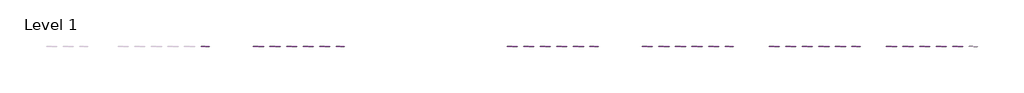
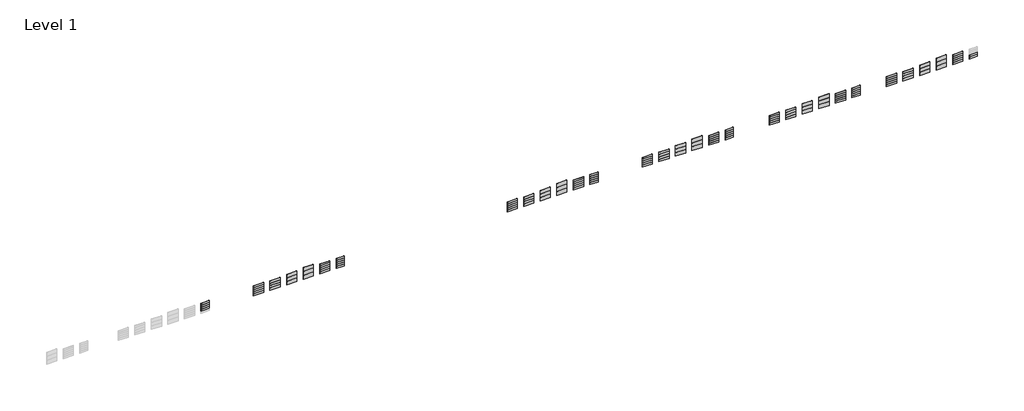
# One storey, part 4 of 6: 126 plates.
"""IFC4 building model written with IfcOpenShell, lengths in millimetres."""

from ifc_helpers import new_model, si_unit, origin, place, context, project, spatial, transform, mapped, element, save
from components import s001_satin_white_12mm_60b0a342, s001_satin_white_12mm_af0daad2, s001_satin_white_12mm_b3103b5f, plate_547342df, s001_satin_white_12mm_c1b55f6d, s001_satin_white_12mm_d668b75a, s001_satin_white_12mm_d8c75ca1, s001_satin_white_12mm_670b1509, s001_satin_white_20mm_e5290f1d, plate_eaecce36, s001_satin_white_20mm_25284a5f, plate_eb5be41b

model = new_model("IFC4")

# Units and contexts
model_context = context("Model", 3, world=origin())
ifc_project = project(units=[si_unit("LENGTHUNIT", "METRE", prefix="MILLI")], contexts=[model_context])

# Site, building, storey
site = spatial("IfcSite", under=ifc_project)
building = spatial("IfcBuilding", under=site)
storey = spatial("IfcBuildingStorey", under=building, Name="Level 1", Elevation=0.0)

# Plates
placement = place(None, origin())
s001_satin_white_12mm_shape = s001_satin_white_12mm_60b0a342(model_context)
element("IfcPlate", 1, ObjectType="Curtain-Panels_Outdoor-Material_HI-MACS_Solids : S102_Babylon-Beige_12mm", at=placement, inside=storey, context=model_context, shape_type="MappedRepresentation", body=[
    mapped(s001_satin_white_12mm_shape, transform((581315.8858072, 1061.3187116, 0.0), x_axis=(1.0, 0.0, 0.0), y_axis=(0.0, 1.0, 0.0), z_axis=(0.0, 0.0, 1.0))),
])
element("IfcPlate", 2, ObjectType="Curtain-Panels_Outdoor-Material_HI-MACS_Solids : S102_Babylon-Beige_12mm", at=placement, inside=storey, context=model_context, shape_type="MappedRepresentation", body=[
    mapped(s001_satin_white_12mm_shape, transform((581315.8858072, 1061.3187116, 760.0), x_axis=(1.0, 0.0, 0.0), y_axis=(0.0, 1.0, 0.0), z_axis=(0.0, 0.0, 1.0))),
])
element("IfcPlate", 3, ObjectType="Curtain-Panels_Outdoor-Material_HI-MACS_Solids : S102_Babylon-Beige_12mm", at=placement, inside=storey, context=model_context, shape_type="MappedRepresentation", body=[
    mapped(s001_satin_white_12mm_shape, transform((581315.8858072, 1061.3187116, 1520.0), x_axis=(1.0, 0.0, 0.0), y_axis=(0.0, 1.0, 0.0), z_axis=(0.0, 0.0, 1.0))),
])
element("IfcPlate", 4, ObjectType="Curtain-Panels_Outdoor-Material_HI-MACS_Solids : S102_Babylon-Beige_12mm", at=placement, inside=storey, context=model_context, shape_type="MappedRepresentation", body=[
    mapped(s001_satin_white_12mm_shape, transform((581315.8858072, 1061.3187116, 2280.0), x_axis=(1.0, 0.0, 0.0), y_axis=(0.0, 1.0, 0.0), z_axis=(0.0, 0.0, 1.0))),
])
s001_satin_white_12mm_2_shape = s001_satin_white_12mm_af0daad2(model_context)
element("IfcPlate", 5, ObjectType="Curtain-Panels_Outdoor-Material_HI-MACS_Solids : S102_Babylon-Beige_12mm", at=placement, inside=storey, context=model_context, shape_type="MappedRepresentation", body=[
    mapped(s001_satin_white_12mm_2_shape, transform((581315.8858072, 1061.3187116, 3040.0), x_axis=(1.0, 0.0, 0.0), y_axis=(0.0, 1.0, 0.0), z_axis=(0.0, 0.0, 1.0))),
])
s001_satin_white_12mm_3_shape = s001_satin_white_12mm_b3103b5f(model_context)
element("IfcPlate", 6, ObjectType="Curtain-Panels_Outdoor-Material_HI-MACS_Solids : S102_Babylon-Beige_12mm", at=placement, inside=storey, context=model_context, shape_type="MappedRepresentation", body=[
    mapped(s001_satin_white_12mm_3_shape, transform((587315.8858072, 1061.3187116, 0.0), x_axis=(1.0, 0.0, 0.0), y_axis=(0.0, 1.0, 0.0), z_axis=(0.0, 0.0, 1.0))),
])
element("IfcPlate", 7, ObjectType="Curtain-Panels_Outdoor-Material_HI-MACS_Solids : S102_Babylon-Beige_12mm", at=placement, inside=storey, context=model_context, shape_type="MappedRepresentation", body=[
    mapped(s001_satin_white_12mm_3_shape, transform((587315.8858072, 1061.3187116, 910.0), x_axis=(1.0, 0.0, 0.0), y_axis=(0.0, 1.0, 0.0), z_axis=(0.0, 0.0, 1.0))),
])
element("IfcPlate", 8, ObjectType="Curtain-Panels_Outdoor-Material_HI-MACS_Solids : S102_Babylon-Beige_12mm", at=placement, inside=storey, context=model_context, shape_type="MappedRepresentation", body=[
    mapped(s001_satin_white_12mm_3_shape, transform((587315.8858072, 1061.3187116, 1820.0), x_axis=(1.0, 0.0, 0.0), y_axis=(0.0, 1.0, 0.0), z_axis=(0.0, 0.0, 1.0))),
])
plate_shape = plate_547342df(model_context)
element("IfcPlate", 9, ObjectType="Curtain-Panels_Outdoor-Material_HI-MACS_Solids : S102_Babylon-Beige_12mm", at=placement, inside=storey, context=model_context, shape_type="MappedRepresentation", body=[
    mapped(plate_shape, transform((587315.8858072, 1061.3187116, 2730.0), x_axis=(1.0, 0.0, 0.0), y_axis=(0.0, 1.0, 0.0), z_axis=(0.0, 0.0, 1.0))),
])
s001_satin_white_12mm_4_shape = s001_satin_white_12mm_c1b55f6d(model_context)
element("IfcPlate", 10, ObjectType="Curtain-Panels_Outdoor-Material_HI-MACS_Solids : S102_Babylon-Beige_12mm", at=placement, inside=storey, context=model_context, shape_type="MappedRepresentation", body=[
    mapped(s001_satin_white_12mm_4_shape, transform((593315.8858072, 1061.3187116, 0.0), x_axis=(1.0, 0.0, 0.0), y_axis=(0.0, 1.0, 0.0), z_axis=(0.0, 0.0, 1.0))),
])
element("IfcPlate", 11, ObjectType="Curtain-Panels_Outdoor-Material_HI-MACS_Solids : S102_Babylon-Beige_12mm", at=placement, inside=storey, context=model_context, shape_type="MappedRepresentation", body=[
    mapped(s001_satin_white_12mm_4_shape, transform((593315.8858072, 1061.3187116, 1350.0), x_axis=(1.0, 0.0, 0.0), y_axis=(0.0, 1.0, 0.0), z_axis=(0.0, 0.0, 1.0))),
])
s001_satin_white_12mm_5_shape = s001_satin_white_12mm_d668b75a(model_context)
element("IfcPlate", 12, ObjectType="Curtain-Panels_Outdoor-Material_HI-MACS_Solids : S102_Babylon-Beige_12mm", at=placement, inside=storey, context=model_context, shape_type="MappedRepresentation", body=[
    mapped(s001_satin_white_12mm_5_shape, transform((593315.8858072, 1061.3187116, 2700.0), x_axis=(1.0, 0.0, 0.0), y_axis=(0.0, 1.0, 0.0), z_axis=(0.0, 0.0, 1.0))),
])
s001_satin_white_12mm_6_shape = s001_satin_white_12mm_d8c75ca1(model_context)
element("IfcPlate", 13, ObjectType="Curtain-Panels_Outdoor-Material_HI-MACS_Solids : S102_Babylon-Beige_12mm", at=placement, inside=storey, context=model_context, shape_type="MappedRepresentation", body=[
    mapped(s001_satin_white_12mm_6_shape, transform((599315.8858072, 1061.3187116, 0.0), x_axis=(1.0, 0.0, 0.0), y_axis=(0.0, 1.0, 0.0), z_axis=(0.0, 0.0, 1.0))),
])
element("IfcPlate", 14, ObjectType="Curtain-Panels_Outdoor-Material_HI-MACS_Solids : S102_Babylon-Beige_12mm", at=placement, inside=storey, context=model_context, shape_type="MappedRepresentation", body=[
    mapped(s001_satin_white_12mm_6_shape, transform((599315.8858072, 1061.3187116, 1520.0), x_axis=(1.0, 0.0, 0.0), y_axis=(0.0, 1.0, 0.0), z_axis=(0.0, 0.0, 1.0))),
])
s001_satin_white_12mm_7_shape = s001_satin_white_12mm_670b1509(model_context)
element("IfcPlate", 15, ObjectType="Curtain-Panels_Outdoor-Material_HI-MACS_Solids : S102_Babylon-Beige_12mm", at=placement, inside=storey, context=model_context, shape_type="MappedRepresentation", body=[
    mapped(s001_satin_white_12mm_7_shape, transform((599315.8858072, 1061.3187116, 3040.0), x_axis=(1.0, 0.0, 0.0), y_axis=(0.0, 1.0, 0.0), z_axis=(0.0, 0.0, 1.0))),
])
s001_satin_white_20mm_shape = s001_satin_white_20mm_e5290f1d(model_context)
element("IfcPlate", 16, ObjectType="Curtain-Panels_Outdoor-Material_HI-MACS_Solids : S102_Babylon-Beige_20mm", at=placement, inside=storey, context=model_context, shape_type="MappedRepresentation", body=[
    mapped(s001_satin_white_20mm_shape, transform((605315.8858072, 1061.3187116, 0.0), x_axis=(1.0, 0.0, 0.0), y_axis=(0.0, 1.0, 0.0), z_axis=(0.0, 0.0, 1.0))),
])
element("IfcPlate", 17, ObjectType="Curtain-Panels_Outdoor-Material_HI-MACS_Solids : S102_Babylon-Beige_20mm", at=placement, inside=storey, context=model_context, shape_type="MappedRepresentation", body=[
    mapped(s001_satin_white_20mm_shape, transform((605315.8858072, 1061.3187116, 760.0), x_axis=(1.0, 0.0, 0.0), y_axis=(0.0, 1.0, 0.0), z_axis=(0.0, 0.0, 1.0))),
])
element("IfcPlate", 18, ObjectType="Curtain-Panels_Outdoor-Material_HI-MACS_Solids : S102_Babylon-Beige_20mm", at=placement, inside=storey, context=model_context, shape_type="MappedRepresentation", body=[
    mapped(s001_satin_white_20mm_shape, transform((605315.8858072, 1061.3187116, 1520.0), x_axis=(1.0, 0.0, 0.0), y_axis=(0.0, 1.0, 0.0), z_axis=(0.0, 0.0, 1.0))),
])
element("IfcPlate", 19, ObjectType="Curtain-Panels_Outdoor-Material_HI-MACS_Solids : S102_Babylon-Beige_20mm", at=placement, inside=storey, context=model_context, shape_type="MappedRepresentation", body=[
    mapped(s001_satin_white_20mm_shape, transform((605315.8858072, 1061.3187116, 2280.0), x_axis=(1.0, 0.0, 0.0), y_axis=(0.0, 1.0, 0.0), z_axis=(0.0, 0.0, 1.0))),
])
plate_2_shape = plate_eaecce36(model_context)
element("IfcPlate", 20, ObjectType="Curtain-Panels_Outdoor-Material_HI-MACS_Solids : S102_Babylon-Beige_20mm", at=placement, inside=storey, context=model_context, shape_type="MappedRepresentation", body=[
    mapped(plate_2_shape, transform((605315.8858072, 1061.3187116, 3040.0), x_axis=(1.0, 0.0, 0.0), y_axis=(0.0, 1.0, 0.0), z_axis=(0.0, 0.0, 1.0))),
])
s001_satin_white_20mm_2_shape = s001_satin_white_20mm_25284a5f(model_context)
element("IfcPlate", 21, ObjectType="Curtain-Panels_Outdoor-Material_HI-MACS_Solids : S102_Babylon-Beige_20mm", at=placement, inside=storey, context=model_context, shape_type="MappedRepresentation", body=[
    mapped(s001_satin_white_20mm_2_shape, transform((610975.8858072, 1061.3187116, 0.0), x_axis=(1.0, 0.0, 0.0), y_axis=(0.0, 1.0, 0.0), z_axis=(0.0, 0.0, 1.0))),
])
element("IfcPlate", 22, ObjectType="Curtain-Panels_Outdoor-Material_HI-MACS_Solids : S102_Babylon-Beige_20mm", at=placement, inside=storey, context=model_context, shape_type="MappedRepresentation", body=[
    mapped(s001_satin_white_20mm_2_shape, transform((610975.8858072, 1061.3187116, 760.0), x_axis=(1.0, 0.0, 0.0), y_axis=(0.0, 1.0, 0.0), z_axis=(0.0, 0.0, 1.0))),
])
element("IfcPlate", 23, ObjectType="Curtain-Panels_Outdoor-Material_HI-MACS_Solids : S102_Babylon-Beige_20mm", at=placement, inside=storey, context=model_context, shape_type="MappedRepresentation", body=[
    mapped(s001_satin_white_20mm_2_shape, transform((610975.8858072, 1061.3187116, 1520.0), x_axis=(1.0, 0.0, 0.0), y_axis=(0.0, 1.0, 0.0), z_axis=(0.0, 0.0, 1.0))),
])
element("IfcPlate", 24, ObjectType="Curtain-Panels_Outdoor-Material_HI-MACS_Solids : S102_Babylon-Beige_20mm", at=placement, inside=storey, context=model_context, shape_type="MappedRepresentation", body=[
    mapped(s001_satin_white_20mm_2_shape, transform((610975.8858072, 1061.3187116, 2280.0), x_axis=(1.0, 0.0, 0.0), y_axis=(0.0, 1.0, 0.0), z_axis=(0.0, 0.0, 1.0))),
])
plate_3_shape = plate_eb5be41b(model_context)
element("IfcPlate", 25, ObjectType="Curtain-Panels_Outdoor-Material_HI-MACS_Solids : S102_Babylon-Beige_20mm", at=placement, inside=storey, context=model_context, shape_type="MappedRepresentation", body=[
    mapped(plate_3_shape, transform((610975.8858072, 1061.3187116, 3040.0), x_axis=(1.0, 0.0, 0.0), y_axis=(0.0, 1.0, 0.0), z_axis=(0.0, 0.0, 1.0))),
])
element("IfcPlate", 26, ObjectType="Curtain-Panels_Outdoor-Material_HI-MACS_Solids : S027_Orange_20mm", at=placement, inside=storey, context=model_context, shape_type="MappedRepresentation", body=[
    mapped(s001_satin_white_20mm_2_shape, transform((374975.8858072, 1061.3187116, 760.0), x_axis=(1.0, 0.0, 0.0), y_axis=(0.0, 1.0, 0.0), z_axis=(0.0, 0.0, 1.0))),
])
element("IfcPlate", 27, ObjectType="Curtain-Panels_Outdoor-Material_HI-MACS_Solids : S027_Orange_20mm", at=placement, inside=storey, context=model_context, shape_type="MappedRepresentation", body=[
    mapped(s001_satin_white_20mm_2_shape, transform((374975.8858072, 1061.3187116, 1520.0), x_axis=(1.0, 0.0, 0.0), y_axis=(0.0, 1.0, 0.0), z_axis=(0.0, 0.0, 1.0))),
])
element("IfcPlate", 28, ObjectType="Curtain-Panels_Outdoor-Material_HI-MACS_Solids : S027_Orange_20mm", at=placement, inside=storey, context=model_context, shape_type="MappedRepresentation", body=[
    mapped(s001_satin_white_20mm_2_shape, transform((374975.8858072, 1061.3187116, 2280.0), x_axis=(1.0, 0.0, 0.0), y_axis=(0.0, 1.0, 0.0), z_axis=(0.0, 0.0, 1.0))),
])
element("IfcPlate", 29, ObjectType="Curtain-Panels_Outdoor-Material_HI-MACS_Solids : S027_Orange_20mm", at=placement, inside=storey, context=model_context, shape_type="MappedRepresentation", body=[
    mapped(plate_3_shape, transform((374975.8858072, 1061.3187116, 3040.0), x_axis=(1.0, 0.0, 0.0), y_axis=(0.0, 1.0, 0.0), z_axis=(0.0, 0.0, 1.0))),
])
element("IfcPlate", 30, ObjectType="Curtain-Panels_Outdoor-Material_HI-MACS_Solids : S029_Ivory-White_12mm", at=placement, inside=storey, context=model_context, shape_type="MappedRepresentation", body=[
    mapped(s001_satin_white_12mm_shape, transform((394315.8858072, 1061.3187116, 0.0), x_axis=(1.0, 0.0, 0.0), y_axis=(0.0, 1.0, 0.0), z_axis=(0.0, 0.0, 1.0))),
])
element("IfcPlate", 31, ObjectType="Curtain-Panels_Outdoor-Material_HI-MACS_Solids : S029_Ivory-White_12mm", at=placement, inside=storey, context=model_context, shape_type="MappedRepresentation", body=[
    mapped(s001_satin_white_12mm_shape, transform((394315.8858072, 1061.3187116, 760.0), x_axis=(1.0, 0.0, 0.0), y_axis=(0.0, 1.0, 0.0), z_axis=(0.0, 0.0, 1.0))),
])
element("IfcPlate", 32, ObjectType="Curtain-Panels_Outdoor-Material_HI-MACS_Solids : S029_Ivory-White_12mm", at=placement, inside=storey, context=model_context, shape_type="MappedRepresentation", body=[
    mapped(s001_satin_white_12mm_shape, transform((394315.8858072, 1061.3187116, 1520.0), x_axis=(1.0, 0.0, 0.0), y_axis=(0.0, 1.0, 0.0), z_axis=(0.0, 0.0, 1.0))),
])
element("IfcPlate", 33, ObjectType="Curtain-Panels_Outdoor-Material_HI-MACS_Solids : S029_Ivory-White_12mm", at=placement, inside=storey, context=model_context, shape_type="MappedRepresentation", body=[
    mapped(s001_satin_white_12mm_shape, transform((394315.8858072, 1061.3187116, 2280.0), x_axis=(1.0, 0.0, 0.0), y_axis=(0.0, 1.0, 0.0), z_axis=(0.0, 0.0, 1.0))),
])
element("IfcPlate", 34, ObjectType="Curtain-Panels_Outdoor-Material_HI-MACS_Solids : S029_Ivory-White_12mm", at=placement, inside=storey, context=model_context, shape_type="MappedRepresentation", body=[
    mapped(s001_satin_white_12mm_2_shape, transform((394315.8858072, 1061.3187116, 3040.0), x_axis=(1.0, 0.0, 0.0), y_axis=(0.0, 1.0, 0.0), z_axis=(0.0, 0.0, 1.0))),
])
element("IfcPlate", 35, ObjectType="Curtain-Panels_Outdoor-Material_HI-MACS_Solids : S029_Ivory-White_12mm", at=placement, inside=storey, context=model_context, shape_type="MappedRepresentation", body=[
    mapped(s001_satin_white_12mm_3_shape, transform((400315.8858072, 1061.3187116, 0.0), x_axis=(1.0, 0.0, 0.0), y_axis=(0.0, 1.0, 0.0), z_axis=(0.0, 0.0, 1.0))),
])
element("IfcPlate", 36, ObjectType="Curtain-Panels_Outdoor-Material_HI-MACS_Solids : S029_Ivory-White_12mm", at=placement, inside=storey, context=model_context, shape_type="MappedRepresentation", body=[
    mapped(s001_satin_white_12mm_3_shape, transform((400315.8858072, 1061.3187116, 910.0), x_axis=(1.0, 0.0, 0.0), y_axis=(0.0, 1.0, 0.0), z_axis=(0.0, 0.0, 1.0))),
])
element("IfcPlate", 37, ObjectType="Curtain-Panels_Outdoor-Material_HI-MACS_Solids : S029_Ivory-White_12mm", at=placement, inside=storey, context=model_context, shape_type="MappedRepresentation", body=[
    mapped(s001_satin_white_12mm_3_shape, transform((400315.8858072, 1061.3187116, 1820.0), x_axis=(1.0, 0.0, 0.0), y_axis=(0.0, 1.0, 0.0), z_axis=(0.0, 0.0, 1.0))),
])
element("IfcPlate", 38, ObjectType="Curtain-Panels_Outdoor-Material_HI-MACS_Solids : S029_Ivory-White_12mm", at=placement, inside=storey, context=model_context, shape_type="MappedRepresentation", body=[
    mapped(plate_shape, transform((400315.8858072, 1061.3187116, 2730.0), x_axis=(1.0, 0.0, 0.0), y_axis=(0.0, 1.0, 0.0), z_axis=(0.0, 0.0, 1.0))),
])
element("IfcPlate", 39, ObjectType="Curtain-Panels_Outdoor-Material_HI-MACS_Solids : S029_Ivory-White_12mm", at=placement, inside=storey, context=model_context, shape_type="MappedRepresentation", body=[
    mapped(s001_satin_white_12mm_4_shape, transform((406315.8858072, 1061.3187116, 0.0), x_axis=(1.0, 0.0, 0.0), y_axis=(0.0, 1.0, 0.0), z_axis=(0.0, 0.0, 1.0))),
])
element("IfcPlate", 40, ObjectType="Curtain-Panels_Outdoor-Material_HI-MACS_Solids : S029_Ivory-White_12mm", at=placement, inside=storey, context=model_context, shape_type="MappedRepresentation", body=[
    mapped(s001_satin_white_12mm_4_shape, transform((406315.8858072, 1061.3187116, 1350.0), x_axis=(1.0, 0.0, 0.0), y_axis=(0.0, 1.0, 0.0), z_axis=(0.0, 0.0, 1.0))),
])
element("IfcPlate", 41, ObjectType="Curtain-Panels_Outdoor-Material_HI-MACS_Solids : S029_Ivory-White_12mm", at=placement, inside=storey, context=model_context, shape_type="MappedRepresentation", body=[
    mapped(s001_satin_white_12mm_5_shape, transform((406315.8858072, 1061.3187116, 2700.0), x_axis=(1.0, 0.0, 0.0), y_axis=(0.0, 1.0, 0.0), z_axis=(0.0, 0.0, 1.0))),
])
element("IfcPlate", 42, ObjectType="Curtain-Panels_Outdoor-Material_HI-MACS_Solids : S029_Ivory-White_12mm", at=placement, inside=storey, context=model_context, shape_type="MappedRepresentation", body=[
    mapped(s001_satin_white_12mm_6_shape, transform((412315.8858072, 1061.3187116, 0.0), x_axis=(1.0, 0.0, 0.0), y_axis=(0.0, 1.0, 0.0), z_axis=(0.0, 0.0, 1.0))),
])
element("IfcPlate", 43, ObjectType="Curtain-Panels_Outdoor-Material_HI-MACS_Solids : S029_Ivory-White_12mm", at=placement, inside=storey, context=model_context, shape_type="MappedRepresentation", body=[
    mapped(s001_satin_white_12mm_6_shape, transform((412315.8858072, 1061.3187116, 1520.0), x_axis=(1.0, 0.0, 0.0), y_axis=(0.0, 1.0, 0.0), z_axis=(0.0, 0.0, 1.0))),
])
element("IfcPlate", 44, ObjectType="Curtain-Panels_Outdoor-Material_HI-MACS_Solids : S029_Ivory-White_12mm", at=placement, inside=storey, context=model_context, shape_type="MappedRepresentation", body=[
    mapped(s001_satin_white_12mm_7_shape, transform((412315.8858072, 1061.3187116, 3040.0), x_axis=(1.0, 0.0, 0.0), y_axis=(0.0, 1.0, 0.0), z_axis=(0.0, 0.0, 1.0))),
])
element("IfcPlate", 45, ObjectType="Curtain-Panels_Outdoor-Material_HI-MACS_Solids : S029_Ivory-White_20mm", at=placement, inside=storey, context=model_context, shape_type="MappedRepresentation", body=[
    mapped(s001_satin_white_20mm_shape, transform((418315.8858072, 1061.3187116, 0.0), x_axis=(1.0, 0.0, 0.0), y_axis=(0.0, 1.0, 0.0), z_axis=(0.0, 0.0, 1.0))),
])
element("IfcPlate", 46, ObjectType="Curtain-Panels_Outdoor-Material_HI-MACS_Solids : S029_Ivory-White_20mm", at=placement, inside=storey, context=model_context, shape_type="MappedRepresentation", body=[
    mapped(s001_satin_white_20mm_shape, transform((418315.8858072, 1061.3187116, 760.0), x_axis=(1.0, 0.0, 0.0), y_axis=(0.0, 1.0, 0.0), z_axis=(0.0, 0.0, 1.0))),
])
element("IfcPlate", 47, ObjectType="Curtain-Panels_Outdoor-Material_HI-MACS_Solids : S029_Ivory-White_20mm", at=placement, inside=storey, context=model_context, shape_type="MappedRepresentation", body=[
    mapped(s001_satin_white_20mm_shape, transform((418315.8858072, 1061.3187116, 1520.0), x_axis=(1.0, 0.0, 0.0), y_axis=(0.0, 1.0, 0.0), z_axis=(0.0, 0.0, 1.0))),
])
element("IfcPlate", 48, ObjectType="Curtain-Panels_Outdoor-Material_HI-MACS_Solids : S029_Ivory-White_20mm", at=placement, inside=storey, context=model_context, shape_type="MappedRepresentation", body=[
    mapped(s001_satin_white_20mm_shape, transform((418315.8858072, 1061.3187116, 2280.0), x_axis=(1.0, 0.0, 0.0), y_axis=(0.0, 1.0, 0.0), z_axis=(0.0, 0.0, 1.0))),
])
element("IfcPlate", 49, ObjectType="Curtain-Panels_Outdoor-Material_HI-MACS_Solids : S029_Ivory-White_20mm", at=placement, inside=storey, context=model_context, shape_type="MappedRepresentation", body=[
    mapped(plate_2_shape, transform((418315.8858072, 1061.3187116, 3040.0), x_axis=(1.0, 0.0, 0.0), y_axis=(0.0, 1.0, 0.0), z_axis=(0.0, 0.0, 1.0))),
])
element("IfcPlate", 50, ObjectType="Curtain-Panels_Outdoor-Material_HI-MACS_Solids : S029_Ivory-White_20mm", at=placement, inside=storey, context=model_context, shape_type="MappedRepresentation", body=[
    mapped(s001_satin_white_20mm_2_shape, transform((423975.8858072, 1061.3187116, 0.0), x_axis=(1.0, 0.0, 0.0), y_axis=(0.0, 1.0, 0.0), z_axis=(0.0, 0.0, 1.0))),
])
element("IfcPlate", 51, ObjectType="Curtain-Panels_Outdoor-Material_HI-MACS_Solids : S029_Ivory-White_20mm", at=placement, inside=storey, context=model_context, shape_type="MappedRepresentation", body=[
    mapped(s001_satin_white_20mm_2_shape, transform((423975.8858072, 1061.3187116, 760.0), x_axis=(1.0, 0.0, 0.0), y_axis=(0.0, 1.0, 0.0), z_axis=(0.0, 0.0, 1.0))),
])
element("IfcPlate", 52, ObjectType="Curtain-Panels_Outdoor-Material_HI-MACS_Solids : S029_Ivory-White_20mm", at=placement, inside=storey, context=model_context, shape_type="MappedRepresentation", body=[
    mapped(s001_satin_white_20mm_2_shape, transform((423975.8858072, 1061.3187116, 1520.0), x_axis=(1.0, 0.0, 0.0), y_axis=(0.0, 1.0, 0.0), z_axis=(0.0, 0.0, 1.0))),
])
element("IfcPlate", 53, ObjectType="Curtain-Panels_Outdoor-Material_HI-MACS_Solids : S029_Ivory-White_20mm", at=placement, inside=storey, context=model_context, shape_type="MappedRepresentation", body=[
    mapped(s001_satin_white_20mm_2_shape, transform((423975.8858072, 1061.3187116, 2280.0), x_axis=(1.0, 0.0, 0.0), y_axis=(0.0, 1.0, 0.0), z_axis=(0.0, 0.0, 1.0))),
])
element("IfcPlate", 54, ObjectType="Curtain-Panels_Outdoor-Material_HI-MACS_Solids : S029_Ivory-White_20mm", at=placement, inside=storey, context=model_context, shape_type="MappedRepresentation", body=[
    mapped(plate_3_shape, transform((423975.8858072, 1061.3187116, 3040.0), x_axis=(1.0, 0.0, 0.0), y_axis=(0.0, 1.0, 0.0), z_axis=(0.0, 0.0, 1.0))),
])
element("IfcPlate", 55, ObjectType="Curtain-Panels_Outdoor-Material_HI-MACS_Solids : S034_Diamond-White_12mm", at=placement, inside=storey, context=model_context, shape_type="MappedRepresentation", body=[
    mapped(s001_satin_white_12mm_shape, transform((486315.8858072, 1061.3187116, 0.0), x_axis=(1.0, 0.0, 0.0), y_axis=(0.0, 1.0, 0.0), z_axis=(0.0, 0.0, 1.0))),
])
element("IfcPlate", 56, ObjectType="Curtain-Panels_Outdoor-Material_HI-MACS_Solids : S034_Diamond-White_12mm", at=placement, inside=storey, context=model_context, shape_type="MappedRepresentation", body=[
    mapped(s001_satin_white_12mm_shape, transform((486315.8858072, 1061.3187116, 760.0), x_axis=(1.0, 0.0, 0.0), y_axis=(0.0, 1.0, 0.0), z_axis=(0.0, 0.0, 1.0))),
])
element("IfcPlate", 57, ObjectType="Curtain-Panels_Outdoor-Material_HI-MACS_Solids : S034_Diamond-White_12mm", at=placement, inside=storey, context=model_context, shape_type="MappedRepresentation", body=[
    mapped(s001_satin_white_12mm_shape, transform((486315.8858072, 1061.3187116, 1520.0), x_axis=(1.0, 0.0, 0.0), y_axis=(0.0, 1.0, 0.0), z_axis=(0.0, 0.0, 1.0))),
])
element("IfcPlate", 58, ObjectType="Curtain-Panels_Outdoor-Material_HI-MACS_Solids : S034_Diamond-White_12mm", at=placement, inside=storey, context=model_context, shape_type="MappedRepresentation", body=[
    mapped(s001_satin_white_12mm_shape, transform((486315.8858072, 1061.3187116, 2280.0), x_axis=(1.0, 0.0, 0.0), y_axis=(0.0, 1.0, 0.0), z_axis=(0.0, 0.0, 1.0))),
])
element("IfcPlate", 59, ObjectType="Curtain-Panels_Outdoor-Material_HI-MACS_Solids : S034_Diamond-White_12mm", at=placement, inside=storey, context=model_context, shape_type="MappedRepresentation", body=[
    mapped(s001_satin_white_12mm_2_shape, transform((486315.8858072, 1061.3187116, 3040.0), x_axis=(1.0, 0.0, 0.0), y_axis=(0.0, 1.0, 0.0), z_axis=(0.0, 0.0, 1.0))),
])
element("IfcPlate", 60, ObjectType="Curtain-Panels_Outdoor-Material_HI-MACS_Solids : S034_Diamond-White_12mm", at=placement, inside=storey, context=model_context, shape_type="MappedRepresentation", body=[
    mapped(s001_satin_white_12mm_3_shape, transform((492315.8858072, 1061.3187116, 0.0), x_axis=(1.0, 0.0, 0.0), y_axis=(0.0, 1.0, 0.0), z_axis=(0.0, 0.0, 1.0))),
])
element("IfcPlate", 61, ObjectType="Curtain-Panels_Outdoor-Material_HI-MACS_Solids : S034_Diamond-White_12mm", at=placement, inside=storey, context=model_context, shape_type="MappedRepresentation", body=[
    mapped(s001_satin_white_12mm_3_shape, transform((492315.8858072, 1061.3187116, 910.0), x_axis=(1.0, 0.0, 0.0), y_axis=(0.0, 1.0, 0.0), z_axis=(0.0, 0.0, 1.0))),
])
element("IfcPlate", 62, ObjectType="Curtain-Panels_Outdoor-Material_HI-MACS_Solids : S034_Diamond-White_12mm", at=placement, inside=storey, context=model_context, shape_type="MappedRepresentation", body=[
    mapped(s001_satin_white_12mm_3_shape, transform((492315.8858072, 1061.3187116, 1820.0), x_axis=(1.0, 0.0, 0.0), y_axis=(0.0, 1.0, 0.0), z_axis=(0.0, 0.0, 1.0))),
])
element("IfcPlate", 63, ObjectType="Curtain-Panels_Outdoor-Material_HI-MACS_Solids : S034_Diamond-White_12mm", at=placement, inside=storey, context=model_context, shape_type="MappedRepresentation", body=[
    mapped(plate_shape, transform((492315.8858072, 1061.3187116, 2730.0), x_axis=(1.0, 0.0, 0.0), y_axis=(0.0, 1.0, 0.0), z_axis=(0.0, 0.0, 1.0))),
])
element("IfcPlate", 64, ObjectType="Curtain-Panels_Outdoor-Material_HI-MACS_Solids : S034_Diamond-White_12mm", at=placement, inside=storey, context=model_context, shape_type="MappedRepresentation", body=[
    mapped(s001_satin_white_12mm_4_shape, transform((498315.8858072, 1061.3187116, 0.0), x_axis=(1.0, 0.0, 0.0), y_axis=(0.0, 1.0, 0.0), z_axis=(0.0, 0.0, 1.0))),
])
element("IfcPlate", 65, ObjectType="Curtain-Panels_Outdoor-Material_HI-MACS_Solids : S034_Diamond-White_12mm", at=placement, inside=storey, context=model_context, shape_type="MappedRepresentation", body=[
    mapped(s001_satin_white_12mm_4_shape, transform((498315.8858072, 1061.3187116, 1350.0), x_axis=(1.0, 0.0, 0.0), y_axis=(0.0, 1.0, 0.0), z_axis=(0.0, 0.0, 1.0))),
])
element("IfcPlate", 66, ObjectType="Curtain-Panels_Outdoor-Material_HI-MACS_Solids : S034_Diamond-White_12mm", at=placement, inside=storey, context=model_context, shape_type="MappedRepresentation", body=[
    mapped(s001_satin_white_12mm_5_shape, transform((498315.8858072, 1061.3187116, 2700.0), x_axis=(1.0, 0.0, 0.0), y_axis=(0.0, 1.0, 0.0), z_axis=(0.0, 0.0, 1.0))),
])
element("IfcPlate", 67, ObjectType="Curtain-Panels_Outdoor-Material_HI-MACS_Solids : S034_Diamond-White_12mm", at=placement, inside=storey, context=model_context, shape_type="MappedRepresentation", body=[
    mapped(s001_satin_white_12mm_6_shape, transform((504315.8858072, 1061.3187116, 0.0), x_axis=(1.0, 0.0, 0.0), y_axis=(0.0, 1.0, 0.0), z_axis=(0.0, 0.0, 1.0))),
])
element("IfcPlate", 68, ObjectType="Curtain-Panels_Outdoor-Material_HI-MACS_Solids : S034_Diamond-White_12mm", at=placement, inside=storey, context=model_context, shape_type="MappedRepresentation", body=[
    mapped(s001_satin_white_12mm_6_shape, transform((504315.8858072, 1061.3187116, 1520.0), x_axis=(1.0, 0.0, 0.0), y_axis=(0.0, 1.0, 0.0), z_axis=(0.0, 0.0, 1.0))),
])
element("IfcPlate", 69, ObjectType="Curtain-Panels_Outdoor-Material_HI-MACS_Solids : S034_Diamond-White_12mm", at=placement, inside=storey, context=model_context, shape_type="MappedRepresentation", body=[
    mapped(s001_satin_white_12mm_7_shape, transform((504315.8858072, 1061.3187116, 3040.0), x_axis=(1.0, 0.0, 0.0), y_axis=(0.0, 1.0, 0.0), z_axis=(0.0, 0.0, 1.0))),
])
element("IfcPlate", 70, ObjectType="Curtain-Panels_Outdoor-Material_HI-MACS_Solids : S034_Diamond-White_20mm", at=placement, inside=storey, context=model_context, shape_type="MappedRepresentation", body=[
    mapped(s001_satin_white_20mm_shape, transform((510315.8858072, 1061.3187116, 0.0), x_axis=(1.0, 0.0, 0.0), y_axis=(0.0, 1.0, 0.0), z_axis=(0.0, 0.0, 1.0))),
])
element("IfcPlate", 71, ObjectType="Curtain-Panels_Outdoor-Material_HI-MACS_Solids : S034_Diamond-White_20mm", at=placement, inside=storey, context=model_context, shape_type="MappedRepresentation", body=[
    mapped(s001_satin_white_20mm_shape, transform((510315.8858072, 1061.3187116, 760.0), x_axis=(1.0, 0.0, 0.0), y_axis=(0.0, 1.0, 0.0), z_axis=(0.0, 0.0, 1.0))),
])
element("IfcPlate", 72, ObjectType="Curtain-Panels_Outdoor-Material_HI-MACS_Solids : S034_Diamond-White_20mm", at=placement, inside=storey, context=model_context, shape_type="MappedRepresentation", body=[
    mapped(s001_satin_white_20mm_shape, transform((510315.8858072, 1061.3187116, 1520.0), x_axis=(1.0, 0.0, 0.0), y_axis=(0.0, 1.0, 0.0), z_axis=(0.0, 0.0, 1.0))),
])
element("IfcPlate", 73, ObjectType="Curtain-Panels_Outdoor-Material_HI-MACS_Solids : S034_Diamond-White_20mm", at=placement, inside=storey, context=model_context, shape_type="MappedRepresentation", body=[
    mapped(s001_satin_white_20mm_shape, transform((510315.8858072, 1061.3187116, 2280.0), x_axis=(1.0, 0.0, 0.0), y_axis=(0.0, 1.0, 0.0), z_axis=(0.0, 0.0, 1.0))),
])
element("IfcPlate", 74, ObjectType="Curtain-Panels_Outdoor-Material_HI-MACS_Solids : S034_Diamond-White_20mm", at=placement, inside=storey, context=model_context, shape_type="MappedRepresentation", body=[
    mapped(plate_2_shape, transform((510315.8858072, 1061.3187116, 3040.0), x_axis=(1.0, 0.0, 0.0), y_axis=(0.0, 1.0, 0.0), z_axis=(0.0, 0.0, 1.0))),
])
element("IfcPlate", 75, ObjectType="Curtain-Panels_Outdoor-Material_HI-MACS_Solids : S034_Diamond-White_20mm", at=placement, inside=storey, context=model_context, shape_type="MappedRepresentation", body=[
    mapped(s001_satin_white_20mm_2_shape, transform((515975.8858072, 1061.3187116, 0.0), x_axis=(1.0, 0.0, 0.0), y_axis=(0.0, 1.0, 0.0), z_axis=(0.0, 0.0, 1.0))),
])
element("IfcPlate", 76, ObjectType="Curtain-Panels_Outdoor-Material_HI-MACS_Solids : S034_Diamond-White_20mm", at=placement, inside=storey, context=model_context, shape_type="MappedRepresentation", body=[
    mapped(s001_satin_white_20mm_2_shape, transform((515975.8858072, 1061.3187116, 760.0), x_axis=(1.0, 0.0, 0.0), y_axis=(0.0, 1.0, 0.0), z_axis=(0.0, 0.0, 1.0))),
])
element("IfcPlate", 77, ObjectType="Curtain-Panels_Outdoor-Material_HI-MACS_Solids : S034_Diamond-White_20mm", at=placement, inside=storey, context=model_context, shape_type="MappedRepresentation", body=[
    mapped(s001_satin_white_20mm_2_shape, transform((515975.8858072, 1061.3187116, 1520.0), x_axis=(1.0, 0.0, 0.0), y_axis=(0.0, 1.0, 0.0), z_axis=(0.0, 0.0, 1.0))),
])
element("IfcPlate", 78, ObjectType="Curtain-Panels_Outdoor-Material_HI-MACS_Solids : S034_Diamond-White_20mm", at=placement, inside=storey, context=model_context, shape_type="MappedRepresentation", body=[
    mapped(s001_satin_white_20mm_2_shape, transform((515975.8858072, 1061.3187116, 2280.0), x_axis=(1.0, 0.0, 0.0), y_axis=(0.0, 1.0, 0.0), z_axis=(0.0, 0.0, 1.0))),
])
element("IfcPlate", 79, ObjectType="Curtain-Panels_Outdoor-Material_HI-MACS_Solids : S034_Diamond-White_20mm", at=placement, inside=storey, context=model_context, shape_type="MappedRepresentation", body=[
    mapped(plate_3_shape, transform((515975.8858072, 1061.3187116, 3040.0), x_axis=(1.0, 0.0, 0.0), y_axis=(0.0, 1.0, 0.0), z_axis=(0.0, 0.0, 1.0))),
])
element("IfcPlate", 80, ObjectType="Curtain-Panels_Outdoor-Material_HI-MACS_Solids : S100_Coffee-Brown_12mm", at=placement, inside=storey, context=model_context, shape_type="MappedRepresentation", body=[
    mapped(s001_satin_white_12mm_shape, transform((535315.8858072, 1061.3187116, 0.0), x_axis=(1.0, 0.0, 0.0), y_axis=(0.0, 1.0, 0.0), z_axis=(0.0, 0.0, 1.0))),
])
element("IfcPlate", 81, ObjectType="Curtain-Panels_Outdoor-Material_HI-MACS_Solids : S100_Coffee-Brown_12mm", at=placement, inside=storey, context=model_context, shape_type="MappedRepresentation", body=[
    mapped(s001_satin_white_12mm_shape, transform((535315.8858072, 1061.3187116, 760.0), x_axis=(1.0, 0.0, 0.0), y_axis=(0.0, 1.0, 0.0), z_axis=(0.0, 0.0, 1.0))),
])
element("IfcPlate", 82, ObjectType="Curtain-Panels_Outdoor-Material_HI-MACS_Solids : S100_Coffee-Brown_12mm", at=placement, inside=storey, context=model_context, shape_type="MappedRepresentation", body=[
    mapped(s001_satin_white_12mm_shape, transform((535315.8858072, 1061.3187116, 1520.0), x_axis=(1.0, 0.0, 0.0), y_axis=(0.0, 1.0, 0.0), z_axis=(0.0, 0.0, 1.0))),
])
element("IfcPlate", 83, ObjectType="Curtain-Panels_Outdoor-Material_HI-MACS_Solids : S100_Coffee-Brown_12mm", at=placement, inside=storey, context=model_context, shape_type="MappedRepresentation", body=[
    mapped(s001_satin_white_12mm_shape, transform((535315.8858072, 1061.3187116, 2280.0), x_axis=(1.0, 0.0, 0.0), y_axis=(0.0, 1.0, 0.0), z_axis=(0.0, 0.0, 1.0))),
])
element("IfcPlate", 84, ObjectType="Curtain-Panels_Outdoor-Material_HI-MACS_Solids : S100_Coffee-Brown_12mm", at=placement, inside=storey, context=model_context, shape_type="MappedRepresentation", body=[
    mapped(s001_satin_white_12mm_2_shape, transform((535315.8858072, 1061.3187116, 3040.0), x_axis=(1.0, 0.0, 0.0), y_axis=(0.0, 1.0, 0.0), z_axis=(0.0, 0.0, 1.0))),
])
element("IfcPlate", 85, ObjectType="Curtain-Panels_Outdoor-Material_HI-MACS_Solids : S100_Coffee-Brown_12mm", at=placement, inside=storey, context=model_context, shape_type="MappedRepresentation", body=[
    mapped(s001_satin_white_12mm_3_shape, transform((541315.8858072, 1061.3187116, 0.0), x_axis=(1.0, 0.0, 0.0), y_axis=(0.0, 1.0, 0.0), z_axis=(0.0, 0.0, 1.0))),
])
element("IfcPlate", 86, ObjectType="Curtain-Panels_Outdoor-Material_HI-MACS_Solids : S100_Coffee-Brown_12mm", at=placement, inside=storey, context=model_context, shape_type="MappedRepresentation", body=[
    mapped(s001_satin_white_12mm_3_shape, transform((541315.8858072, 1061.3187116, 910.0), x_axis=(1.0, 0.0, 0.0), y_axis=(0.0, 1.0, 0.0), z_axis=(0.0, 0.0, 1.0))),
])
element("IfcPlate", 87, ObjectType="Curtain-Panels_Outdoor-Material_HI-MACS_Solids : S100_Coffee-Brown_12mm", at=placement, inside=storey, context=model_context, shape_type="MappedRepresentation", body=[
    mapped(s001_satin_white_12mm_3_shape, transform((541315.8858072, 1061.3187116, 1820.0), x_axis=(1.0, 0.0, 0.0), y_axis=(0.0, 1.0, 0.0), z_axis=(0.0, 0.0, 1.0))),
])
element("IfcPlate", 88, ObjectType="Curtain-Panels_Outdoor-Material_HI-MACS_Solids : S100_Coffee-Brown_12mm", at=placement, inside=storey, context=model_context, shape_type="MappedRepresentation", body=[
    mapped(plate_shape, transform((541315.8858072, 1061.3187116, 2730.0), x_axis=(1.0, 0.0, 0.0), y_axis=(0.0, 1.0, 0.0), z_axis=(0.0, 0.0, 1.0))),
])
element("IfcPlate", 89, ObjectType="Curtain-Panels_Outdoor-Material_HI-MACS_Solids : S100_Coffee-Brown_12mm", at=placement, inside=storey, context=model_context, shape_type="MappedRepresentation", body=[
    mapped(s001_satin_white_12mm_4_shape, transform((547315.8858072, 1061.3187116, 0.0), x_axis=(1.0, 0.0, 0.0), y_axis=(0.0, 1.0, 0.0), z_axis=(0.0, 0.0, 1.0))),
])
element("IfcPlate", 90, ObjectType="Curtain-Panels_Outdoor-Material_HI-MACS_Solids : S100_Coffee-Brown_12mm", at=placement, inside=storey, context=model_context, shape_type="MappedRepresentation", body=[
    mapped(s001_satin_white_12mm_4_shape, transform((547315.8858072, 1061.3187116, 1350.0), x_axis=(1.0, 0.0, 0.0), y_axis=(0.0, 1.0, 0.0), z_axis=(0.0, 0.0, 1.0))),
])
element("IfcPlate", 91, ObjectType="Curtain-Panels_Outdoor-Material_HI-MACS_Solids : S100_Coffee-Brown_12mm", at=placement, inside=storey, context=model_context, shape_type="MappedRepresentation", body=[
    mapped(s001_satin_white_12mm_5_shape, transform((547315.8858072, 1061.3187116, 2700.0), x_axis=(1.0, 0.0, 0.0), y_axis=(0.0, 1.0, 0.0), z_axis=(0.0, 0.0, 1.0))),
])
element("IfcPlate", 92, ObjectType="Curtain-Panels_Outdoor-Material_HI-MACS_Solids : S100_Coffee-Brown_12mm", at=placement, inside=storey, context=model_context, shape_type="MappedRepresentation", body=[
    mapped(s001_satin_white_12mm_6_shape, transform((553315.8858072, 1061.3187116, 0.0), x_axis=(1.0, 0.0, 0.0), y_axis=(0.0, 1.0, 0.0), z_axis=(0.0, 0.0, 1.0))),
])
element("IfcPlate", 93, ObjectType="Curtain-Panels_Outdoor-Material_HI-MACS_Solids : S100_Coffee-Brown_12mm", at=placement, inside=storey, context=model_context, shape_type="MappedRepresentation", body=[
    mapped(s001_satin_white_12mm_6_shape, transform((553315.8858072, 1061.3187116, 1520.0), x_axis=(1.0, 0.0, 0.0), y_axis=(0.0, 1.0, 0.0), z_axis=(0.0, 0.0, 1.0))),
])
element("IfcPlate", 94, ObjectType="Curtain-Panels_Outdoor-Material_HI-MACS_Solids : S100_Coffee-Brown_12mm", at=placement, inside=storey, context=model_context, shape_type="MappedRepresentation", body=[
    mapped(s001_satin_white_12mm_7_shape, transform((553315.8858072, 1061.3187116, 3040.0), x_axis=(1.0, 0.0, 0.0), y_axis=(0.0, 1.0, 0.0), z_axis=(0.0, 0.0, 1.0))),
])
element("IfcPlate", 95, ObjectType="Curtain-Panels_Outdoor-Material_HI-MACS_Solids : S100_Coffee-Brown_20mm", at=placement, inside=storey, context=model_context, shape_type="MappedRepresentation", body=[
    mapped(s001_satin_white_20mm_shape, transform((559315.8858072, 1061.3187116, 0.0), x_axis=(1.0, 0.0, 0.0), y_axis=(0.0, 1.0, 0.0), z_axis=(0.0, 0.0, 1.0))),
])
element("IfcPlate", 96, ObjectType="Curtain-Panels_Outdoor-Material_HI-MACS_Solids : S100_Coffee-Brown_20mm", at=placement, inside=storey, context=model_context, shape_type="MappedRepresentation", body=[
    mapped(s001_satin_white_20mm_shape, transform((559315.8858072, 1061.3187116, 760.0), x_axis=(1.0, 0.0, 0.0), y_axis=(0.0, 1.0, 0.0), z_axis=(0.0, 0.0, 1.0))),
])
element("IfcPlate", 97, ObjectType="Curtain-Panels_Outdoor-Material_HI-MACS_Solids : S100_Coffee-Brown_20mm", at=placement, inside=storey, context=model_context, shape_type="MappedRepresentation", body=[
    mapped(s001_satin_white_20mm_shape, transform((559315.8858072, 1061.3187116, 1520.0), x_axis=(1.0, 0.0, 0.0), y_axis=(0.0, 1.0, 0.0), z_axis=(0.0, 0.0, 1.0))),
])
element("IfcPlate", 98, ObjectType="Curtain-Panels_Outdoor-Material_HI-MACS_Solids : S100_Coffee-Brown_20mm", at=placement, inside=storey, context=model_context, shape_type="MappedRepresentation", body=[
    mapped(s001_satin_white_20mm_shape, transform((559315.8858072, 1061.3187116, 2280.0), x_axis=(1.0, 0.0, 0.0), y_axis=(0.0, 1.0, 0.0), z_axis=(0.0, 0.0, 1.0))),
])
element("IfcPlate", 99, ObjectType="Curtain-Panels_Outdoor-Material_HI-MACS_Solids : S100_Coffee-Brown_20mm", at=placement, inside=storey, context=model_context, shape_type="MappedRepresentation", body=[
    mapped(plate_2_shape, transform((559315.8858072, 1061.3187116, 3040.0), x_axis=(1.0, 0.0, 0.0), y_axis=(0.0, 1.0, 0.0), z_axis=(0.0, 0.0, 1.0))),
])
element("IfcPlate", 100, ObjectType="Curtain-Panels_Outdoor-Material_HI-MACS_Solids : S100_Coffee-Brown_20mm", at=placement, inside=storey, context=model_context, shape_type="MappedRepresentation", body=[
    mapped(s001_satin_white_20mm_2_shape, transform((564975.8858072, 1061.3187116, 0.0), x_axis=(1.0, 0.0, 0.0), y_axis=(0.0, 1.0, 0.0), z_axis=(0.0, 0.0, 1.0))),
])
element("IfcPlate", 101, ObjectType="Curtain-Panels_Outdoor-Material_HI-MACS_Solids : S100_Coffee-Brown_20mm", at=placement, inside=storey, context=model_context, shape_type="MappedRepresentation", body=[
    mapped(s001_satin_white_20mm_2_shape, transform((564975.8858072, 1061.3187116, 760.0), x_axis=(1.0, 0.0, 0.0), y_axis=(0.0, 1.0, 0.0), z_axis=(0.0, 0.0, 1.0))),
])
element("IfcPlate", 102, ObjectType="Curtain-Panels_Outdoor-Material_HI-MACS_Solids : S100_Coffee-Brown_20mm", at=placement, inside=storey, context=model_context, shape_type="MappedRepresentation", body=[
    mapped(s001_satin_white_20mm_2_shape, transform((564975.8858072, 1061.3187116, 1520.0), x_axis=(1.0, 0.0, 0.0), y_axis=(0.0, 1.0, 0.0), z_axis=(0.0, 0.0, 1.0))),
])
element("IfcPlate", 103, ObjectType="Curtain-Panels_Outdoor-Material_HI-MACS_Solids : S100_Coffee-Brown_20mm", at=placement, inside=storey, context=model_context, shape_type="MappedRepresentation", body=[
    mapped(s001_satin_white_20mm_2_shape, transform((564975.8858072, 1061.3187116, 2280.0), x_axis=(1.0, 0.0, 0.0), y_axis=(0.0, 1.0, 0.0), z_axis=(0.0, 0.0, 1.0))),
])
element("IfcPlate", 104, ObjectType="Curtain-Panels_Outdoor-Material_HI-MACS_Solids : S100_Coffee-Brown_20mm", at=placement, inside=storey, context=model_context, shape_type="MappedRepresentation", body=[
    mapped(plate_3_shape, transform((564975.8858072, 1061.3187116, 3040.0), x_axis=(1.0, 0.0, 0.0), y_axis=(0.0, 1.0, 0.0), z_axis=(0.0, 0.0, 1.0))),
])
element("IfcPlate", 105, ObjectType="Curtain-Panels_Outdoor-Material_HI-MACS_Solids : S103_Concrete-Grey_12mm", at=placement, inside=storey, context=model_context, shape_type="MappedRepresentation", body=[
    mapped(s001_satin_white_12mm_shape, transform((623815.8858072, 1061.3187116, 0.0), x_axis=(1.0, 0.0, 0.0), y_axis=(0.0, 1.0, 0.0), z_axis=(0.0, 0.0, 1.0))),
])
element("IfcPlate", 106, ObjectType="Curtain-Panels_Outdoor-Material_HI-MACS_Solids : S103_Concrete-Grey_12mm", at=placement, inside=storey, context=model_context, shape_type="MappedRepresentation", body=[
    mapped(s001_satin_white_12mm_shape, transform((623815.8858072, 1061.3187116, 760.0), x_axis=(1.0, 0.0, 0.0), y_axis=(0.0, 1.0, 0.0), z_axis=(0.0, 0.0, 1.0))),
])
element("IfcPlate", 107, ObjectType="Curtain-Panels_Outdoor-Material_HI-MACS_Solids : S103_Concrete-Grey_12mm", at=placement, inside=storey, context=model_context, shape_type="MappedRepresentation", body=[
    mapped(s001_satin_white_12mm_shape, transform((623815.8858072, 1061.3187116, 1520.0), x_axis=(1.0, 0.0, 0.0), y_axis=(0.0, 1.0, 0.0), z_axis=(0.0, 0.0, 1.0))),
])
element("IfcPlate", 108, ObjectType="Curtain-Panels_Outdoor-Material_HI-MACS_Solids : S103_Concrete-Grey_12mm", at=placement, inside=storey, context=model_context, shape_type="MappedRepresentation", body=[
    mapped(s001_satin_white_12mm_shape, transform((623815.8858072, 1061.3187116, 2280.0), x_axis=(1.0, 0.0, 0.0), y_axis=(0.0, 1.0, 0.0), z_axis=(0.0, 0.0, 1.0))),
])
element("IfcPlate", 109, ObjectType="Curtain-Panels_Outdoor-Material_HI-MACS_Solids : S103_Concrete-Grey_12mm", at=placement, inside=storey, context=model_context, shape_type="MappedRepresentation", body=[
    mapped(s001_satin_white_12mm_2_shape, transform((623815.8858072, 1061.3187116, 3040.0), x_axis=(1.0, 0.0, 0.0), y_axis=(0.0, 1.0, 0.0), z_axis=(0.0, 0.0, 1.0))),
])
element("IfcPlate", 110, ObjectType="Curtain-Panels_Outdoor-Material_HI-MACS_Solids : S103_Concrete-Grey_12mm", at=placement, inside=storey, context=model_context, shape_type="MappedRepresentation", body=[
    mapped(s001_satin_white_12mm_3_shape, transform((629815.8858072, 1061.3187116, 0.0), x_axis=(1.0, 0.0, 0.0), y_axis=(0.0, 1.0, 0.0), z_axis=(0.0, 0.0, 1.0))),
])
element("IfcPlate", 111, ObjectType="Curtain-Panels_Outdoor-Material_HI-MACS_Solids : S103_Concrete-Grey_12mm", at=placement, inside=storey, context=model_context, shape_type="MappedRepresentation", body=[
    mapped(s001_satin_white_12mm_3_shape, transform((629815.8858072, 1061.3187116, 910.0), x_axis=(1.0, 0.0, 0.0), y_axis=(0.0, 1.0, 0.0), z_axis=(0.0, 0.0, 1.0))),
])
element("IfcPlate", 112, ObjectType="Curtain-Panels_Outdoor-Material_HI-MACS_Solids : S103_Concrete-Grey_12mm", at=placement, inside=storey, context=model_context, shape_type="MappedRepresentation", body=[
    mapped(s001_satin_white_12mm_3_shape, transform((629815.8858072, 1061.3187116, 1820.0), x_axis=(1.0, 0.0, 0.0), y_axis=(0.0, 1.0, 0.0), z_axis=(0.0, 0.0, 1.0))),
])
element("IfcPlate", 113, ObjectType="Curtain-Panels_Outdoor-Material_HI-MACS_Solids : S103_Concrete-Grey_12mm", at=placement, inside=storey, context=model_context, shape_type="MappedRepresentation", body=[
    mapped(plate_shape, transform((629815.8858072, 1061.3187116, 2730.0), x_axis=(1.0, 0.0, 0.0), y_axis=(0.0, 1.0, 0.0), z_axis=(0.0, 0.0, 1.0))),
])
element("IfcPlate", 114, ObjectType="Curtain-Panels_Outdoor-Material_HI-MACS_Solids : S103_Concrete-Grey_12mm", at=placement, inside=storey, context=model_context, shape_type="MappedRepresentation", body=[
    mapped(s001_satin_white_12mm_4_shape, transform((635815.8858072, 1061.3187116, 0.0), x_axis=(1.0, 0.0, 0.0), y_axis=(0.0, 1.0, 0.0), z_axis=(0.0, 0.0, 1.0))),
])
element("IfcPlate", 115, ObjectType="Curtain-Panels_Outdoor-Material_HI-MACS_Solids : S103_Concrete-Grey_12mm", at=placement, inside=storey, context=model_context, shape_type="MappedRepresentation", body=[
    mapped(s001_satin_white_12mm_4_shape, transform((635815.8858072, 1061.3187116, 1350.0), x_axis=(1.0, 0.0, 0.0), y_axis=(0.0, 1.0, 0.0), z_axis=(0.0, 0.0, 1.0))),
])
element("IfcPlate", 116, ObjectType="Curtain-Panels_Outdoor-Material_HI-MACS_Solids : S103_Concrete-Grey_12mm", at=placement, inside=storey, context=model_context, shape_type="MappedRepresentation", body=[
    mapped(s001_satin_white_12mm_5_shape, transform((635815.8858072, 1061.3187116, 2700.0), x_axis=(1.0, 0.0, 0.0), y_axis=(0.0, 1.0, 0.0), z_axis=(0.0, 0.0, 1.0))),
])
element("IfcPlate", 117, ObjectType="Curtain-Panels_Outdoor-Material_HI-MACS_Solids : S103_Concrete-Grey_12mm", at=placement, inside=storey, context=model_context, shape_type="MappedRepresentation", body=[
    mapped(s001_satin_white_12mm_6_shape, transform((641815.8858072, 1061.3187116, 0.0), x_axis=(1.0, 0.0, 0.0), y_axis=(0.0, 1.0, 0.0), z_axis=(0.0, 0.0, 1.0))),
])
element("IfcPlate", 118, ObjectType="Curtain-Panels_Outdoor-Material_HI-MACS_Solids : S103_Concrete-Grey_12mm", at=placement, inside=storey, context=model_context, shape_type="MappedRepresentation", body=[
    mapped(s001_satin_white_12mm_6_shape, transform((641815.8858072, 1061.3187116, 1520.0), x_axis=(1.0, 0.0, 0.0), y_axis=(0.0, 1.0, 0.0), z_axis=(0.0, 0.0, 1.0))),
])
element("IfcPlate", 119, ObjectType="Curtain-Panels_Outdoor-Material_HI-MACS_Solids : S103_Concrete-Grey_12mm", at=placement, inside=storey, context=model_context, shape_type="MappedRepresentation", body=[
    mapped(s001_satin_white_12mm_7_shape, transform((641815.8858072, 1061.3187116, 3040.0), x_axis=(1.0, 0.0, 0.0), y_axis=(0.0, 1.0, 0.0), z_axis=(0.0, 0.0, 1.0))),
])
element("IfcPlate", 120, ObjectType="Curtain-Panels_Outdoor-Material_HI-MACS_Solids : S103_Concrete-Grey_20mm", at=placement, inside=storey, context=model_context, shape_type="MappedRepresentation", body=[
    mapped(s001_satin_white_20mm_shape, transform((647815.8858072, 1061.3187116, 0.0), x_axis=(1.0, 0.0, 0.0), y_axis=(0.0, 1.0, 0.0), z_axis=(0.0, 0.0, 1.0))),
])
element("IfcPlate", 121, ObjectType="Curtain-Panels_Outdoor-Material_HI-MACS_Solids : S103_Concrete-Grey_20mm", at=placement, inside=storey, context=model_context, shape_type="MappedRepresentation", body=[
    mapped(s001_satin_white_20mm_shape, transform((647815.8858072, 1061.3187116, 760.0), x_axis=(1.0, 0.0, 0.0), y_axis=(0.0, 1.0, 0.0), z_axis=(0.0, 0.0, 1.0))),
])
element("IfcPlate", 122, ObjectType="Curtain-Panels_Outdoor-Material_HI-MACS_Solids : S103_Concrete-Grey_20mm", at=placement, inside=storey, context=model_context, shape_type="MappedRepresentation", body=[
    mapped(s001_satin_white_20mm_shape, transform((647815.8858072, 1061.3187116, 1520.0), x_axis=(1.0, 0.0, 0.0), y_axis=(0.0, 1.0, 0.0), z_axis=(0.0, 0.0, 1.0))),
])
element("IfcPlate", 123, ObjectType="Curtain-Panels_Outdoor-Material_HI-MACS_Solids : S103_Concrete-Grey_20mm", at=placement, inside=storey, context=model_context, shape_type="MappedRepresentation", body=[
    mapped(s001_satin_white_20mm_shape, transform((647815.8858072, 1061.3187116, 2280.0), x_axis=(1.0, 0.0, 0.0), y_axis=(0.0, 1.0, 0.0), z_axis=(0.0, 0.0, 1.0))),
])
element("IfcPlate", 124, ObjectType="Curtain-Panels_Outdoor-Material_HI-MACS_Solids : S103_Concrete-Grey_20mm", at=placement, inside=storey, context=model_context, shape_type="MappedRepresentation", body=[
    mapped(plate_2_shape, transform((647815.8858072, 1061.3187116, 3040.0), x_axis=(1.0, 0.0, 0.0), y_axis=(0.0, 1.0, 0.0), z_axis=(0.0, 0.0, 1.0))),
])
element("IfcPlate", 125, ObjectType="Curtain-Panels_Outdoor-Material_HI-MACS_Solids : S103_Concrete-Grey_20mm", at=placement, inside=storey, context=model_context, shape_type="MappedRepresentation", body=[
    mapped(s001_satin_white_20mm_2_shape, transform((653475.8858072, 1061.3187116, 0.0), x_axis=(1.0, 0.0, 0.0), y_axis=(0.0, 1.0, 0.0), z_axis=(0.0, 0.0, 1.0))),
])
element("IfcPlate", 126, ObjectType="Curtain-Panels_Outdoor-Material_HI-MACS_Solids : S103_Concrete-Grey_20mm", at=placement, inside=storey, context=model_context, shape_type="MappedRepresentation", body=[
    mapped(s001_satin_white_20mm_2_shape, transform((653475.8858072, 1061.3187116, 760.0), x_axis=(1.0, 0.0, 0.0), y_axis=(0.0, 1.0, 0.0), z_axis=(0.0, 0.0, 1.0))),
])

save(model, "model.ifc")
